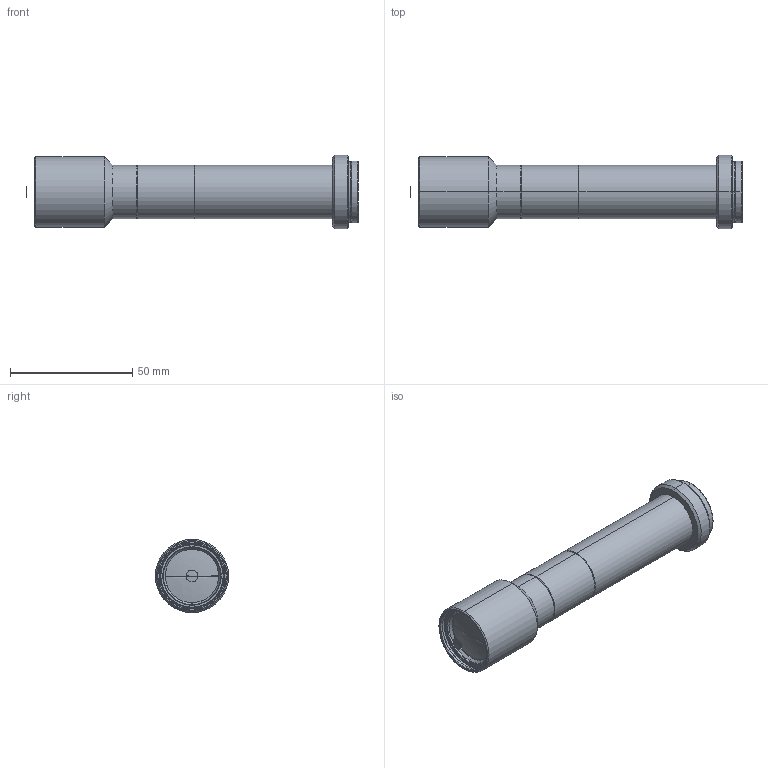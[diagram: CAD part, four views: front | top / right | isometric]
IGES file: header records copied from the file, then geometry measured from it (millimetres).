
Start section: SolidWorks IGES file using analytic representation for surfaces
Bounding box: 136.04 x 30 x 30 mm (x, y, z)
Surface area: 15637.6 mm2 (no closed solid volume)
Topology: 0 solids, 0 shells, 107 faces, 1192 edges, 1190 vertices
Faces by surface type: revolution 96, bspline 11
